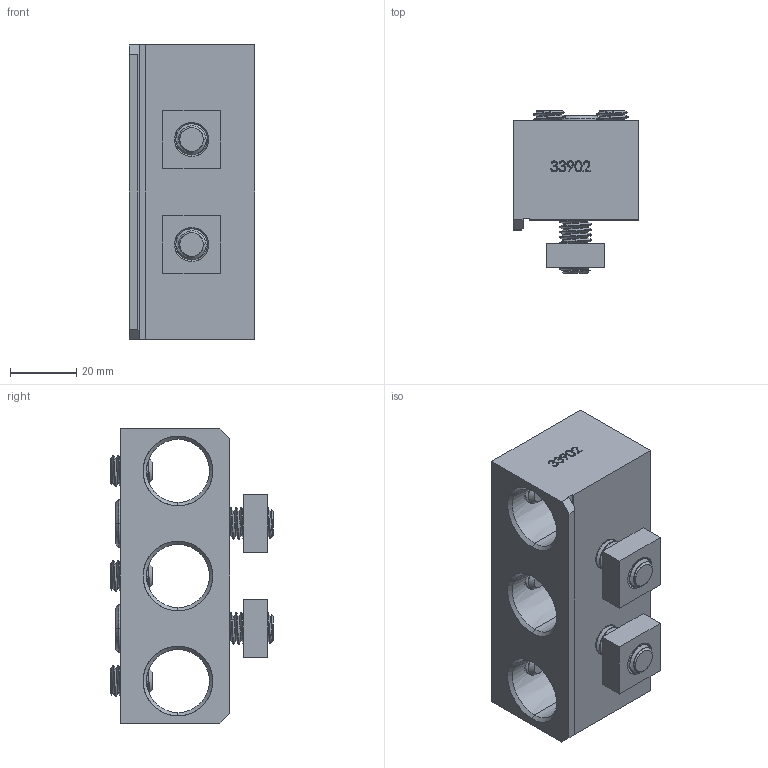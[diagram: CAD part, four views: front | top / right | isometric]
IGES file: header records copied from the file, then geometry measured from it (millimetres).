
Start section: SolidWorks IGES file using analytic representation for surfaces
Global section: file name: R:\Drawings\Files saved as other types\Solid_Models\MODELS FOR PUBLIC\33902 3-POSITION GANG BLOCK.IGS; native system: SolidWorks 2014; preprocessor: SolidWorks 2014; author: rtooley; date: 150616.145527; units: millimetre
Bounding box: 38 x 49.1 x 88.9 mm (x, y, z)
Surface area: 33830.6 mm2 (no closed solid volume)
Topology: 0 solids, 0 shells, 681 faces, 13874 edges, 13862 vertices
Faces by surface type: revolution 454, bspline 227
